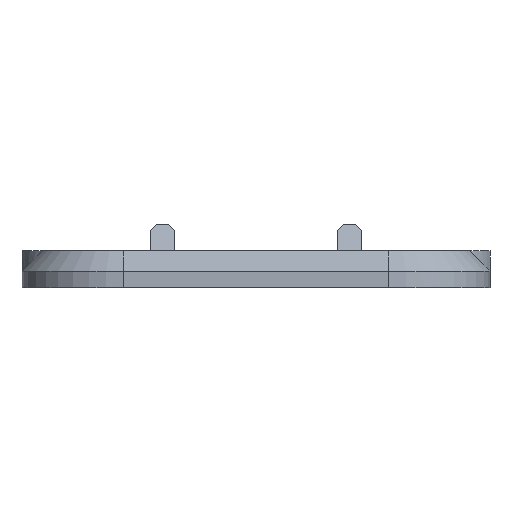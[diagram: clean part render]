
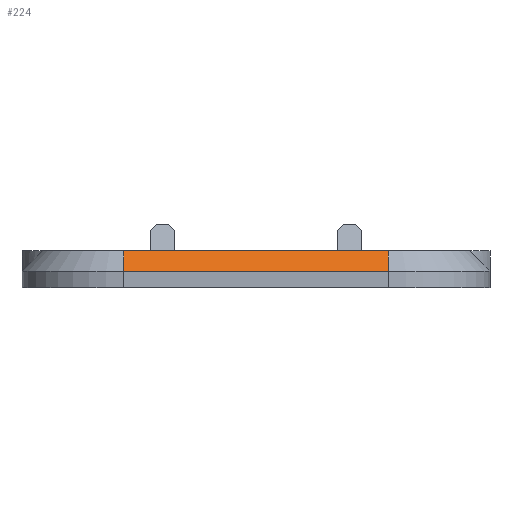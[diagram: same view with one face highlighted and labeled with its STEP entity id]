
A CAD part, front view. The second image highlights one B-rep face of the part: STEP entity #224.
In plain terms, the highlighted planar face has unit normal (0, -0.707, 0.707).
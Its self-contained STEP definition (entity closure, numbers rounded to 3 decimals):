
#24 = VERTEX_POINT('',#25);
#25 = CARTESIAN_POINT('',(10.,0.,22.8));
#32 = PLANE('',#33);
#33 = AXIS2_PLACEMENT_3D('',#34,#35,#36);
#34 = CARTESIAN_POINT('',(0.,0.,21.2));
#35 = DIRECTION('',(0.,1.,0.));
#36 = DIRECTION('',(1.,0.,0.));
#56 = EDGE_CURVE('',#57,#24,#59,.T.);
#57 = VERTEX_POINT('',#58);
#58 = CARTESIAN_POINT('',(36.,0.,22.8));
#59 = SURFACE_CURVE('',#60,(#64,#71),.PCURVE_S1.);
#60 = LINE('',#61,#62);
#61 = CARTESIAN_POINT('',(36.,0.,22.8));
#62 = VECTOR('',#63,1.);
#63 = DIRECTION('',(-1.,-0.,-0.));
#64 = PCURVE('',#32,#65);
#65 = DEFINITIONAL_REPRESENTATION('',(#66),#70);
#66 = LINE('',#67,#68);
#67 = CARTESIAN_POINT('',(36.,-1.6));
#68 = VECTOR('',#69,1.);
#69 = DIRECTION('',(-1.,0.));
#70 = ( GEOMETRIC_REPRESENTATION_CONTEXT(2) 
PARAMETRIC_REPRESENTATION_CONTEXT() REPRESENTATION_CONTEXT('2D SPACE',''
  ) );
#71 = PCURVE('',#72,#77);
#72 = PLANE('',#73);
#73 = AXIS2_PLACEMENT_3D('',#74,#75,#76);
#74 = CARTESIAN_POINT('',(36.,1.,23.8));
#75 = DIRECTION('',(0.,0.707,-0.707));
#76 = DIRECTION('',(-1.,0.,-0.));
#77 = DEFINITIONAL_REPRESENTATION('',(#78),#82);
#78 = LINE('',#79,#80);
#79 = CARTESIAN_POINT('',(0.,-1.414));
#80 = VECTOR('',#81,1.);
#81 = DIRECTION('',(1.,0.));
#82 = ( GEOMETRIC_REPRESENTATION_CONTEXT(2) 
PARAMETRIC_REPRESENTATION_CONTEXT() REPRESENTATION_CONTEXT('2D SPACE',''
  ) );
#213 = CONICAL_SURFACE('',#214,10.,0.785);
#214 = AXIS2_PLACEMENT_3D('',#215,#216,#217);
#215 = CARTESIAN_POINT('',(10.,10.,22.8));
#216 = DIRECTION('',(-0.,-0.,-1.));
#217 = DIRECTION('',(0.,-1.,0.));
#224 = ADVANCED_FACE('',(#225),#72,.F.);
#225 = FACE_BOUND('',#226,.F.);
#226 = EDGE_LOOP('',(#227,#253,#254,#275));
#227 = ORIENTED_EDGE('',*,*,#228,.F.);
#228 = EDGE_CURVE('',#57,#229,#231,.T.);
#229 = VERTEX_POINT('',#230);
#230 = CARTESIAN_POINT('',(36.,2.,24.8));
#231 = SURFACE_CURVE('',#232,(#236,#242),.PCURVE_S1.);
#232 = LINE('',#233,#234);
#233 = CARTESIAN_POINT('',(36.,0.,22.8));
#234 = VECTOR('',#235,1.);
#235 = DIRECTION('',(0.,0.707,0.707));
#236 = PCURVE('',#72,#237);
#237 = DEFINITIONAL_REPRESENTATION('',(#238),#241);
#238 = B_SPLINE_CURVE_WITH_KNOTS('',1,(#239,#240),.UNSPECIFIED.,.F.,.F.,
  (2,2),(0.,2.828),.PIECEWISE_BEZIER_KNOTS.);
#239 = CARTESIAN_POINT('',(0.,-1.414));
#240 = CARTESIAN_POINT('',(0.,1.414));
#241 = ( GEOMETRIC_REPRESENTATION_CONTEXT(2) 
PARAMETRIC_REPRESENTATION_CONTEXT() REPRESENTATION_CONTEXT('2D SPACE',''
  ) );
#242 = PCURVE('',#243,#248);
#243 = CONICAL_SURFACE('',#244,10.,0.785);
#244 = AXIS2_PLACEMENT_3D('',#245,#246,#247);
#245 = CARTESIAN_POINT('',(36.,10.,22.8));
#246 = DIRECTION('',(-0.,-0.,-1.));
#247 = DIRECTION('',(1.,0.,0.));
#248 = DEFINITIONAL_REPRESENTATION('',(#249),#252);
#249 = B_SPLINE_CURVE_WITH_KNOTS('',1,(#250,#251),.UNSPECIFIED.,.F.,.F.,
  (2,2),(0.,2.828),.PIECEWISE_BEZIER_KNOTS.);
#250 = CARTESIAN_POINT('',(1.571,0.));
#251 = CARTESIAN_POINT('',(1.571,-2.));
#252 = ( GEOMETRIC_REPRESENTATION_CONTEXT(2) 
PARAMETRIC_REPRESENTATION_CONTEXT() REPRESENTATION_CONTEXT('2D SPACE',''
  ) );
#253 = ORIENTED_EDGE('',*,*,#56,.T.);
#254 = ORIENTED_EDGE('',*,*,#255,.T.);
#255 = EDGE_CURVE('',#24,#256,#258,.T.);
#256 = VERTEX_POINT('',#257);
#257 = CARTESIAN_POINT('',(10.,2.,24.8));
#258 = SURFACE_CURVE('',#259,(#263,#269),.PCURVE_S1.);
#259 = LINE('',#260,#261);
#260 = CARTESIAN_POINT('',(10.,1.,23.8));
#261 = VECTOR('',#262,1.);
#262 = DIRECTION('',(0.,0.707,0.707));
#263 = PCURVE('',#72,#264);
#264 = DEFINITIONAL_REPRESENTATION('',(#265),#268);
#265 = B_SPLINE_CURVE_WITH_KNOTS('',1,(#266,#267),.UNSPECIFIED.,.F.,.F.,
  (2,2),(-1.414,1.414),.PIECEWISE_BEZIER_KNOTS.);
#266 = CARTESIAN_POINT('',(26.,-1.414));
#267 = CARTESIAN_POINT('',(26.,1.414));
#268 = ( GEOMETRIC_REPRESENTATION_CONTEXT(2) 
PARAMETRIC_REPRESENTATION_CONTEXT() REPRESENTATION_CONTEXT('2D SPACE',''
  ) );
#269 = PCURVE('',#213,#270);
#270 = DEFINITIONAL_REPRESENTATION('',(#271),#274);
#271 = B_SPLINE_CURVE_WITH_KNOTS('',1,(#272,#273),.UNSPECIFIED.,.F.,.F.,
  (2,2),(-1.414,1.414),.PIECEWISE_BEZIER_KNOTS.);
#272 = CARTESIAN_POINT('',(0.,0.));
#273 = CARTESIAN_POINT('',(0.,-2.));
#274 = ( GEOMETRIC_REPRESENTATION_CONTEXT(2) 
PARAMETRIC_REPRESENTATION_CONTEXT() REPRESENTATION_CONTEXT('2D SPACE',''
  ) );
#275 = ORIENTED_EDGE('',*,*,#276,.F.);
#276 = EDGE_CURVE('',#229,#256,#277,.T.);
#277 = SURFACE_CURVE('',#278,(#282,#289),.PCURVE_S1.);
#278 = LINE('',#279,#280);
#279 = CARTESIAN_POINT('',(36.,2.,24.8));
#280 = VECTOR('',#281,1.);
#281 = DIRECTION('',(-1.,-0.,-0.));
#282 = PCURVE('',#72,#283);
#283 = DEFINITIONAL_REPRESENTATION('',(#284),#288);
#284 = LINE('',#285,#286);
#285 = CARTESIAN_POINT('',(0.,1.414));
#286 = VECTOR('',#287,1.);
#287 = DIRECTION('',(1.,0.));
#288 = ( GEOMETRIC_REPRESENTATION_CONTEXT(2) 
PARAMETRIC_REPRESENTATION_CONTEXT() REPRESENTATION_CONTEXT('2D SPACE',''
  ) );
#289 = PCURVE('',#290,#295);
#290 = PLANE('',#291);
#291 = AXIS2_PLACEMENT_3D('',#292,#293,#294);
#292 = CARTESIAN_POINT('',(23.,41.7,24.8));
#293 = DIRECTION('',(0.,0.,1.));
#294 = DIRECTION('',(1.,0.,-0.));
#295 = DEFINITIONAL_REPRESENTATION('',(#296),#300);
#296 = LINE('',#297,#298);
#297 = CARTESIAN_POINT('',(13.,-39.7));
#298 = VECTOR('',#299,1.);
#299 = DIRECTION('',(-1.,0.));
#300 = ( GEOMETRIC_REPRESENTATION_CONTEXT(2) 
PARAMETRIC_REPRESENTATION_CONTEXT() REPRESENTATION_CONTEXT('2D SPACE',''
  ) );
